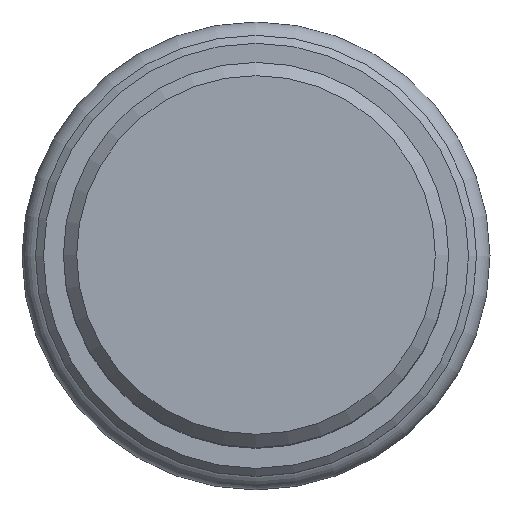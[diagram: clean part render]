
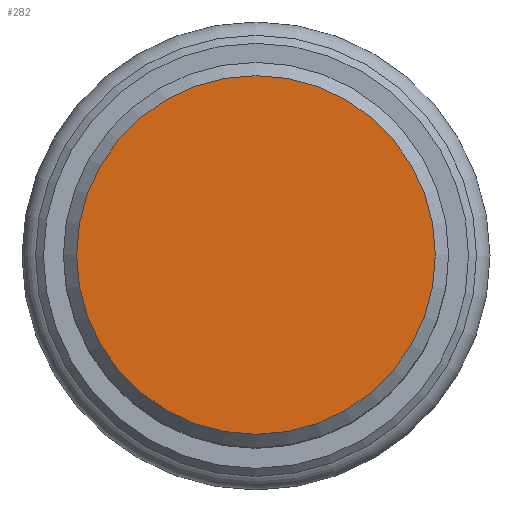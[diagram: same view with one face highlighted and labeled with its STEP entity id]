
A CAD part, top view. The second image highlights one B-rep face of the part: STEP entity #282.
In plain terms, the highlighted planar face has unit normal (0, 0, 1).
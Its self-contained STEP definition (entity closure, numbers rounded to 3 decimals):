
#2 = EDGE_CURVE ( 'NONE', #503, #503, #107, .T. ) ;
#8 = DIRECTION ( 'NONE',  ( 0., -1., 0. ) ) ;
#58 = PLANE ( 'NONE',  #359 ) ;
#66 = DIRECTION ( 'NONE',  ( 0., 0., 1. ) ) ;
#81 = AXIS2_PLACEMENT_3D ( 'NONE', #197, #362, #298 ) ;
#107 = CIRCLE ( 'NONE', #81, 6.75 ) ;
#197 = CARTESIAN_POINT ( 'NONE',  ( 0., 0., 34.15 ) ) ;
#282 = ADVANCED_FACE ( 'NONE', ( #389 ), #58, .T. ) ;
#298 = DIRECTION ( 'NONE',  ( 0., 1., 0. ) ) ;
#359 = AXIS2_PLACEMENT_3D ( 'NONE', #657, #66, #8 ) ;
#362 = DIRECTION ( 'NONE',  ( 0., 0., -1. ) ) ;
#389 = FACE_OUTER_BOUND ( 'NONE', #610, .T. ) ;
#495 = CARTESIAN_POINT ( 'NONE',  ( 0., 6.75, 34.15 ) ) ;
#503 = VERTEX_POINT ( 'NONE', #495 ) ;
#543 = ORIENTED_EDGE ( 'NONE', *, *, #2, .F. ) ;
#610 = EDGE_LOOP ( 'NONE', ( #543 ) ) ;
#657 = CARTESIAN_POINT ( 'NONE',  ( 0., 6.75, 34.15 ) ) ;
